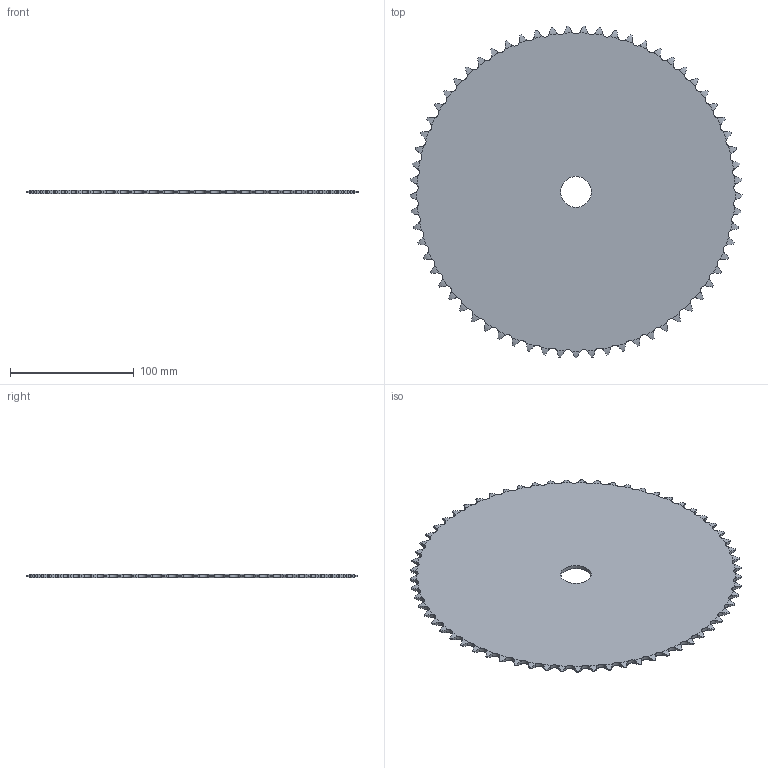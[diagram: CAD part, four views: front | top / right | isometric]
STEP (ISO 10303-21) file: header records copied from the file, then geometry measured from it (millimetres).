
FILE_DESCRIPTION((''),'2;1');
FILE_NAME('500-201-0065_PRT','2021-02-12T',('Brieden'),('Brieden'),'PRO/ENGINEER BY PARAMETRIC TECHNOLOGY CORPORATION, 2010160','PRO/ENGINEER BY PARAMETRIC TECHNOLOGY CORPORATION, 2010160','');
FILE_SCHEMA(('AUTOMOTIVE_DESIGN { 1 0 10303 214 1 1 1 1 }'));
Length unit declared in the file: millimetre
Products named in the file (1): 500-201-0065_PRT
Bounding box: 268.09 x 268.01 x 3 mm (x, y, z)
Volume: 157192.8 mm3; surface area: 108621 mm2
Topology: 1 solids, 1 shells, 394 faces, 1176 edges, 784 vertices
Faces by surface type: cylinder 262, torus 130, plane 2
Entity records: 19401 total; most frequent: CARTESIAN_POINT 5842, ORIENTED_EDGE 2352, DIRECTION 1838, PRESENTATION_STYLE_ASSIGNMENT 1177, STYLED_ITEM 1177, CURVE_STYLE 1176, EDGE_CURVE 1176, AXIS2_PLACEMENT_3D 788
